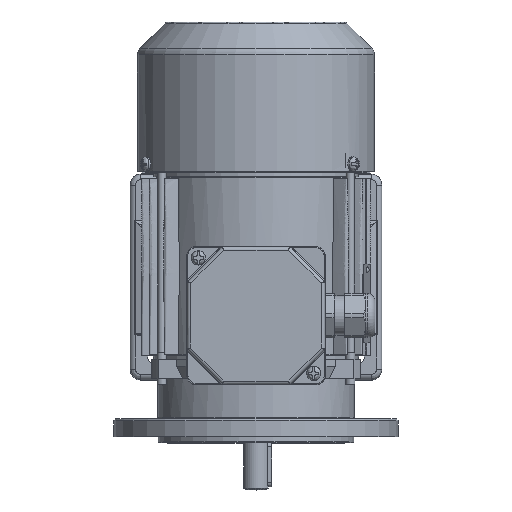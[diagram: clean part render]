
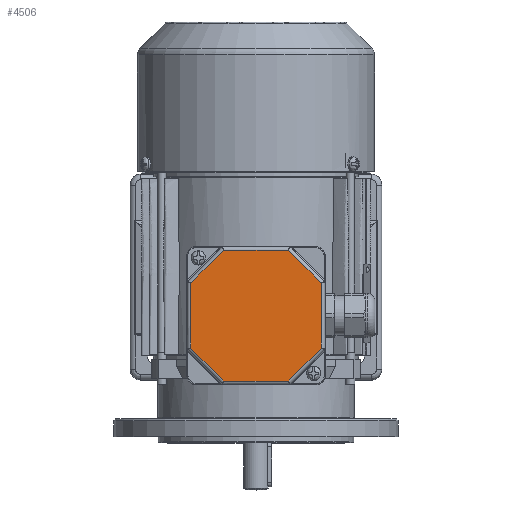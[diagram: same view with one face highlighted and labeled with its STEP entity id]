
A CAD part, top view. The second image highlights one B-rep face of the part: STEP entity #4506.
In plain terms, the highlighted planar face has unit normal (0, 0, 1).
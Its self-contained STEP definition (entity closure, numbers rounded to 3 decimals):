
#4506 = ADVANCED_FACE( '', ( #10295 ), #10296, .T. );
#10295 = FACE_OUTER_BOUND( '', #29466, .T. );
#10296 = PLANE( '', #29467 );
#29466 = EDGE_LOOP( '', ( #65526, #65527, #65528, #65529, #65530, #65531, #65532, #65533 ) );
#29467 = AXIS2_PLACEMENT_3D( '', #65534, #65535, #65536 );
#65526 = ORIENTED_EDGE( '', *, *, #83920, .T. );
#65527 = ORIENTED_EDGE( '', *, *, #81068, .T. );
#65528 = ORIENTED_EDGE( '', *, *, #83290, .T. );
#65529 = ORIENTED_EDGE( '', *, *, #83921, .T. );
#65530 = ORIENTED_EDGE( '', *, *, #83922, .T. );
#65531 = ORIENTED_EDGE( '', *, *, #83923, .T. );
#65532 = ORIENTED_EDGE( '', *, *, #81437, .T. );
#65533 = ORIENTED_EDGE( '', *, *, #83150, .T. );
#65534 = CARTESIAN_POINT( '', ( -39., 39., 12. ) );
#65535 = DIRECTION( '', ( 0., 0., 1. ) );
#65536 = DIRECTION( '', ( 1., 0., 0. ) );
#81068 = EDGE_CURVE( '', #90153, #90154, #90155, .T. );
#81437 = EDGE_CURVE( '', #90805, #90806, #90807, .F. );
#83150 = EDGE_CURVE( '', #90806, #93665, #93667, .T. );
#83290 = EDGE_CURVE( '', #90154, #89818, #93892, .F. );
#83920 = EDGE_CURVE( '', #93665, #90153, #94877, .F. );
#83921 = EDGE_CURVE( '', #89818, #94878, #94879, .T. );
#83922 = EDGE_CURVE( '', #94878, #90631, #94880, .F. );
#83923 = EDGE_CURVE( '', #90631, #90805, #94881, .T. );
#89818 = VERTEX_POINT( '', #104809 );
#90153 = VERTEX_POINT( '', #105782 );
#90154 = VERTEX_POINT( '', #105783 );
#90155 = LINE( '', #105784, #105785 );
#90631 = VERTEX_POINT( '', #107689 );
#90805 = VERTEX_POINT( '', #108477 );
#90806 = VERTEX_POINT( '', #108478 );
#90807 = LINE( '', #108479, #108480 );
#93665 = VERTEX_POINT( '', #119078 );
#93667 = LINE( '', #119080, #119081 );
#93892 = LINE( '', #119627, #119628 );
#94877 = LINE( '', #122733, #122734 );
#94878 = VERTEX_POINT( '', #122735 );
#94879 = LINE( '', #122736, #122737 );
#94880 = LINE( '', #122738, #122739 );
#94881 = LINE( '', #122740, #122741 );
#104809 = CARTESIAN_POINT( '', ( -18.255, 36.825, 12. ) );
#105782 = CARTESIAN_POINT( '', ( 36.825, 18.255, 12. ) );
#105783 = CARTESIAN_POINT( '', ( 18.255, 36.825, 12. ) );
#105784 = CARTESIAN_POINT( '', ( 17.679, 37.401, 12. ) );
#105785 = VECTOR( '', #144044, 1000. );
#107689 = CARTESIAN_POINT( '', ( -36.825, -18.255, 12. ) );
#108477 = CARTESIAN_POINT( '', ( -18.255, -36.825, 12. ) );
#108478 = CARTESIAN_POINT( '', ( 18.255, -36.825, 12. ) );
#108479 = CARTESIAN_POINT( '', ( 19.069, -36.825, 12. ) );
#108480 = VECTOR( '', #144437, 1000. );
#119078 = CARTESIAN_POINT( '', ( 36.825, -18.255, 12. ) );
#119080 = CARTESIAN_POINT( '', ( 37.401, -17.679, 12. ) );
#119081 = VECTOR( '', #146335, 1000. );
#119627 = CARTESIAN_POINT( '', ( -19.069, 36.825, 12. ) );
#119628 = VECTOR( '', #146479, 1000. );
#122733 = CARTESIAN_POINT( '', ( 36.825, 19.069, 12. ) );
#122734 = VECTOR( '', #147210, 1000. );
#122735 = CARTESIAN_POINT( '', ( -36.825, 18.255, 12. ) );
#122736 = CARTESIAN_POINT( '', ( -37.401, 17.679, 12. ) );
#122737 = VECTOR( '', #147211, 1000. );
#122738 = CARTESIAN_POINT( '', ( -36.825, -19.069, 12. ) );
#122739 = VECTOR( '', #147212, 1000. );
#122740 = CARTESIAN_POINT( '', ( -17.679, -37.401, 12. ) );
#122741 = VECTOR( '', #147213, 1000. );
#144044 = DIRECTION( '', ( -0.707, 0.707, 0. ) );
#144437 = DIRECTION( '', ( -1., 0., 0. ) );
#146335 = DIRECTION( '', ( 0.707, 0.707, 0. ) );
#146479 = DIRECTION( '', ( 1., 0., 0. ) );
#147210 = DIRECTION( '', ( 0., -1., 0. ) );
#147211 = DIRECTION( '', ( -0.707, -0.707, 0. ) );
#147212 = DIRECTION( '', ( 0., 1., 0. ) );
#147213 = DIRECTION( '', ( 0.707, -0.707, 0. ) );
